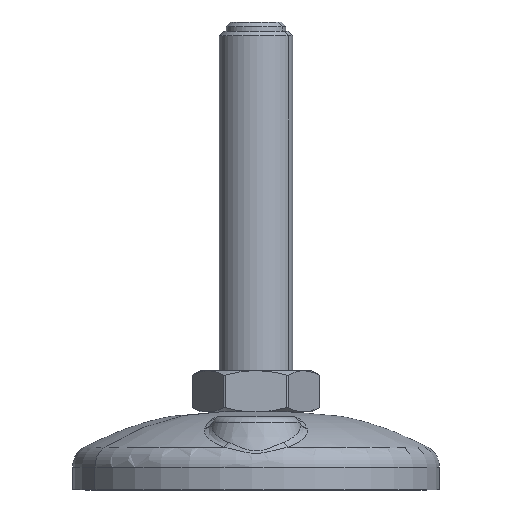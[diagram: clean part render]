
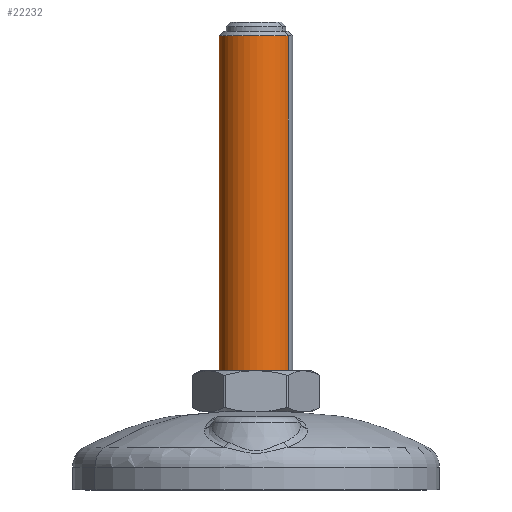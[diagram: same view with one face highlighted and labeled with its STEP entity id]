
A CAD part, left-side view. The second image highlights one B-rep face of the part: STEP entity #22232.
In plain terms, the highlighted cylindrical face has radius 8 mm (diameter 16 mm), a partial arc.
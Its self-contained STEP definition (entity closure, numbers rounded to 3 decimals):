
#22176=CARTESIAN_POINT('Axis2P3D Location',(0.,0.,42.375)) ;
#22181=CARTESIAN_POINT('Line Origine',(3.835,7.021,48.)) ;
#22185=CARTESIAN_POINT('Vertex',(3.835,7.021,16.)) ;
#22187=CARTESIAN_POINT('Vertex',(3.835,7.021,89.)) ;
#22194=CARTESIAN_POINT('Vertex',(-3.835,-7.021,89.)) ;
#22197=CARTESIAN_POINT('Line Origine',(-3.835,-7.021,48.)) ;
#22201=CARTESIAN_POINT('Vertex',(-3.835,-7.021,16.)) ;
#22216=CARTESIAN_POINT('Axis2P3D Location',(0.,0.,89.)) ;
#22221=CARTESIAN_POINT('Axis2P3D Location',(0.,0.,16.)) ;
#22177=DIRECTION('Axis2P3D Direction',(0.,0.,-1.)) ;
#22178=DIRECTION('Axis2P3D XDirection',(0.479,0.878,0.)) ;
#22182=DIRECTION('Vector Direction',(0.,0.,-1.)) ;
#22198=DIRECTION('Vector Direction',(0.,0.,-1.)) ;
#22217=DIRECTION('Axis2P3D Direction',(0.,0.,-1.)) ;
#22222=DIRECTION('Axis2P3D Direction',(0.,0.,-1.)) ;
#22179=AXIS2_PLACEMENT_3D('Cylinder Axis2P3D',#22176,#22177,#22178) ;
#22218=AXIS2_PLACEMENT_3D('Circle Axis2P3D',#22216,#22217,$) ;
#22223=AXIS2_PLACEMENT_3D('Circle Axis2P3D',#22221,#22222,$) ;
#22227=ORIENTED_EDGE('',*,*,#22203,.T.) ;
#22228=ORIENTED_EDGE('',*,*,#22220,.T.) ;
#22229=ORIENTED_EDGE('',*,*,#22189,.F.) ;
#22230=ORIENTED_EDGE('',*,*,#22225,.F.) ;
#22183=VECTOR('Line Direction',#22182,1.) ;
#22199=VECTOR('Line Direction',#22198,1.) ;
#22232=ADVANCED_FACE('PartBody',(#22231),#22180,.T.) ;
#22219=CIRCLE('generated circle',#22218,8.) ;
#22224=CIRCLE('generated circle',#22223,8.) ;
#22180=CYLINDRICAL_SURFACE('generated cylinder',#22179,8.) ;
#22189=EDGE_CURVE('',#22186,#22188,#22184,.F.) ;
#22203=EDGE_CURVE('',#22202,#22195,#22200,.F.) ;
#22220=EDGE_CURVE('',#22195,#22188,#22219,.T.) ;
#22225=EDGE_CURVE('',#22202,#22186,#22224,.T.) ;
#22226=EDGE_LOOP('',(#22227,#22228,#22229,#22230)) ;
#22231=FACE_OUTER_BOUND('',#22226,.T.) ;
#22184=LINE('Line',#22181,#22183) ;
#22200=LINE('Line',#22197,#22199) ;
#22186=VERTEX_POINT('',#22185) ;
#22188=VERTEX_POINT('',#22187) ;
#22195=VERTEX_POINT('',#22194) ;
#22202=VERTEX_POINT('',#22201) ;
